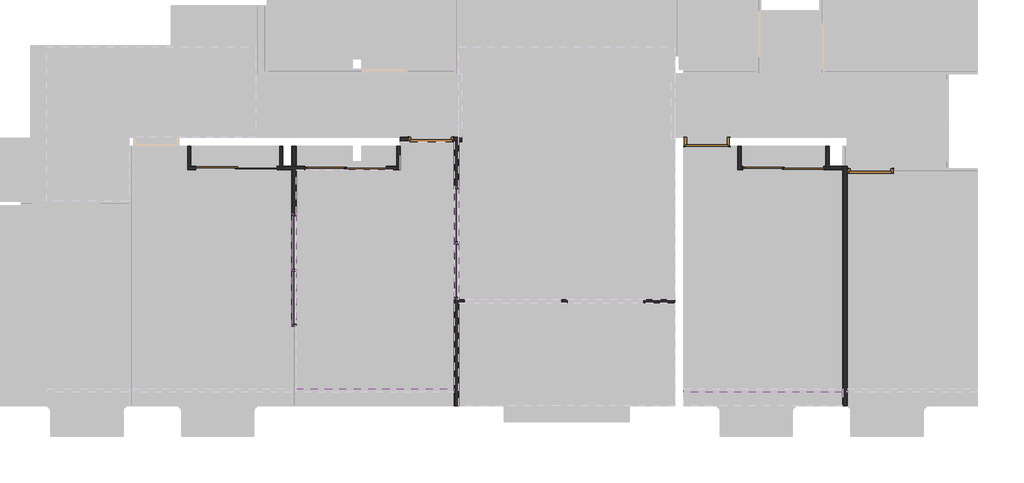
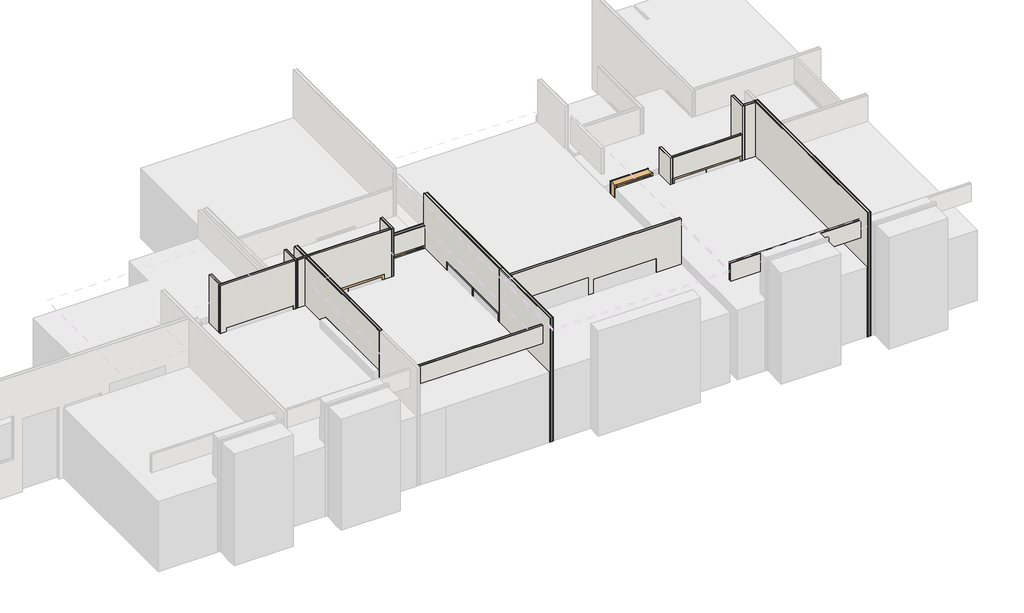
# One storey, part 2 of 6: 24 members, 19 walls, 8 plates, 6 doors.
"""IFC4 building model written with IfcOpenShell, lengths in millimetres."""

from ifc_helpers import new_model, si_unit, frame, origin, origin_with_axes, place, context, project, spatial, polyline, outline, extrude, faceted_brep, transform, mapped, element, save
from components import door_440ebcd5, door_922e83f1, door_a5923646, door_b5ea6a65, member_de099058, member_646bbe2c, member_8ddccc91, member_29740ae2, plate_de56a2f1

model = new_model("IFC4")

# Units and contexts
model_context = context("Model", 3, world=origin())
ifc_project = project(units=[si_unit("LENGTHUNIT", "METRE", prefix="MILLI")], contexts=[model_context])

# Site, building, storey
site = spatial("IfcSite", under=ifc_project)
building = spatial("IfcBuilding", under=site)
storey = spatial("IfcBuildingStorey", under=building, Name="0 Mairie RDC 0.00", Elevation=0.0)

# Doors
placement = place(None, origin())
door_shape = door_440ebcd5(model_context)
element("IfcDoor", 1, ObjectType="Portes - Int. Simple - PP (0.89m x 2.04m)", at=placement, inside=storey, context=model_context, shape_type="MappedRepresentation", body=[
    mapped(door_shape, transform((-4782.496702, -8238.2685444, 0.0), x_axis=(1.0, 0.0, 0.0), y_axis=(0.0, 1.0, 0.0), z_axis=(0.0, 0.0, 1.0))),
])
door_2_shape = door_922e83f1(model_context)
element("IfcDoor", 2, ObjectType="Portes - Int. Simple - PP (0.89m x 2.04m) (1)", at=placement, inside=storey, context=model_context, shape_type="MappedRepresentation", body=[
    mapped(door_2_shape, transform((-1161.3922233, -8831.1038426, 0.0), x_axis=(1.0, 0.0, 0.0), y_axis=(0.0, 1.0, 0.0), z_axis=(0.0, 0.0, 1.0))),
])
door_3_shape = door_a5923646(model_context)
element("IfcDoor", 3, ObjectType="Portes - Int. Simple - PP (0.89m x 2.04m) (2)", at=placement, inside=storey, context=model_context, shape_type="MappedRepresentation", body=[
    mapped(door_3_shape, transform((-10819.6455383, -8132.7867091, 0.0), x_axis=(1.0, 0.0, 0.0), y_axis=(0.0, 1.0, 0.0), z_axis=(0.0, 0.0, 1.0))),
])
door_4_shape = door_b5ea6a65(model_context)
element("IfcDoor", 4, ObjectType="Portes - Placard coulissante - 2 panneaux - Placard coulissante - 2 panneaux 1.80", at=placement, inside=storey, context=model_context, shape_type="MappedRepresentation", body=[
    mapped(door_4_shape, transform((-3421.0406291, -8751.7570094, 0.0), x_axis=(1.0, 0.0, 0.0), y_axis=(0.0, 1.0, 0.0), z_axis=(0.0, 0.0, 1.0))),
])
element("IfcDoor", 5, ObjectType="Portes - Placard coulissante - 2 panneaux - Placard coulissante - 2 panneaux 1.80", at=placement, inside=storey, context=model_context, shape_type="MappedRepresentation", body=[
    mapped(door_4_shape, transform((-13728.6479915, -8682.779598, 0.0), x_axis=(-1.0, 0.0, 0.0), y_axis=(0.0, -1.0, 0.0), z_axis=(0.0, 0.0, 1.0))),
])
element("IfcDoor", 6, ObjectType="Portes - Placard coulissante - 2 panneaux - Placard coulissante - 2 panneaux 1.80", at=placement, inside=storey, context=model_context, shape_type="MappedRepresentation", body=[
    mapped(door_4_shape, transform((-13113.6818197, -8752.6130855, 0.0), x_axis=(1.0, 0.0, 0.0), y_axis=(0.0, 1.0, 0.0), z_axis=(0.0, 0.0, 1.0))),
])

# Members
member_shape = member_de099058(model_context)
element("IfcMember", 7, ObjectType="Meneaux de murs-rideaux - Meneau rectangulaire - 10 x 25mm", at=placement, inside=storey, context=model_context, shape_type="MappedRepresentation", body=[
    mapped(member_shape, transform((-9754.6455383, -10378.5833837, 1125.0), x_axis=(0.0, 1.0, 0.0), y_axis=(1.0, 0.0, 0.0), z_axis=(0.0, 0.0, -1.0))),
])
element("IfcMember", 8, ObjectType="Meneaux de murs-rideaux - Meneau rectangulaire - 10 x 25mm", at=placement, inside=storey, context=model_context, shape_type="MappedRepresentation", body=[
    mapped(member_shape, transform((-13354.255006, -10978.7649845, 1125.0), x_axis=(0.0, 1.0, 0.0), y_axis=(1.0, 0.0, 0.0), z_axis=(0.0, 0.0, -1.0))),
])
element("IfcMember", 9, ObjectType="Meneaux de murs-rideaux - Meneau rectangulaire - 10 x 25mm (1)", at=placement, inside=storey, context=model_context, shape_type="MappedRepresentation", body=[
    mapped(member_shape, transform((-9754.6455383, -10378.5833837, 50.0), x_axis=(0.0, 1.0, 0.0), y_axis=(1.0, 0.0, 0.0), z_axis=(0.0, 0.0, -1.0))),
])
element("IfcMember", 10, ObjectType="Meneaux de murs-rideaux - Meneau rectangulaire - 10 x 25mm (1)", at=placement, inside=storey, context=model_context, shape_type="MappedRepresentation", body=[
    mapped(member_shape, transform((-13354.255006, -10978.7649845, 50.0), x_axis=(0.0, 1.0, 0.0), y_axis=(1.0, 0.0, 0.0), z_axis=(0.0, 0.0, -1.0))),
])
member_2_shape = member_646bbe2c(model_context)
element("IfcMember", 11, ObjectType="Meneaux de murs-rideaux - Meneau rectangulaire - 10 x 25mm (2)", at=placement, inside=storey, context=model_context, shape_type="MappedRepresentation", body=[
    mapped(member_2_shape, transform((-9754.6455383, -9128.5833837, 1125.0), x_axis=(0.0, 1.0, 0.0), y_axis=(1.0, 0.0, 0.0), z_axis=(0.0, 0.0, -1.0))),
])
element("IfcMember", 12, ObjectType="Meneaux de murs-rideaux - Meneau rectangulaire - 10 x 25mm (2)", at=placement, inside=storey, context=model_context, shape_type="MappedRepresentation", body=[
    mapped(member_2_shape, transform((-13354.255006, -9728.7649845, 1125.0), x_axis=(0.0, 1.0, 0.0), y_axis=(1.0, 0.0, 0.0), z_axis=(0.0, 0.0, -1.0))),
])
element("IfcMember", 13, ObjectType="Meneaux de murs-rideaux - Meneau rectangulaire - 10 x 25mm (3)", at=placement, inside=storey, context=model_context, shape_type="MappedRepresentation", body=[
    mapped(member_2_shape, transform((-9754.6455383, -9128.5833837, 50.0), x_axis=(0.0, 1.0, 0.0), y_axis=(1.0, 0.0, 0.0), z_axis=(0.0, 0.0, -1.0))),
])
element("IfcMember", 14, ObjectType="Meneaux de murs-rideaux - Meneau rectangulaire - 10 x 25mm (3)", at=placement, inside=storey, context=model_context, shape_type="MappedRepresentation", body=[
    mapped(member_2_shape, transform((-13354.255006, -9728.7649845, 50.0), x_axis=(0.0, 1.0, 0.0), y_axis=(1.0, 0.0, 0.0), z_axis=(0.0, 0.0, -1.0))),
])
element("IfcMember", 15, ObjectType="Meneaux de murs-rideaux - Meneau rectangulaire - 10 x 25mm (4)", at=placement, inside=storey, context=model_context, shape_type="MappedRepresentation", body=[
    mapped(member_2_shape, transform((-9754.6455383, -11628.5833837, 1125.0), x_axis=(0.0, -1.0, 0.0), y_axis=(1.0, 0.0, 0.0), z_axis=(0.0, 0.0, 1.0))),
])
element("IfcMember", 16, ObjectType="Meneaux de murs-rideaux - Meneau rectangulaire - 10 x 25mm (4)", at=placement, inside=storey, context=model_context, shape_type="MappedRepresentation", body=[
    mapped(member_2_shape, transform((-13354.255006, -12228.7649845, 1125.0), x_axis=(0.0, -1.0, 0.0), y_axis=(1.0, 0.0, 0.0), z_axis=(0.0, 0.0, 1.0))),
])
element("IfcMember", 17, ObjectType="Meneaux de murs-rideaux - Meneau rectangulaire - 10 x 25mm (5)", at=placement, inside=storey, context=model_context, shape_type="MappedRepresentation", body=[
    mapped(member_2_shape, transform((-9754.6455383, -11628.5833837, 2200.0), x_axis=(0.0, -1.0, 0.0), y_axis=(1.0, 0.0, 0.0), z_axis=(0.0, 0.0, 1.0))),
])
element("IfcMember", 18, ObjectType="Meneaux de murs-rideaux - Meneau rectangulaire - 10 x 25mm (5)", at=placement, inside=storey, context=model_context, shape_type="MappedRepresentation", body=[
    mapped(member_2_shape, transform((-13354.255006, -12228.7649845, 2200.0), x_axis=(0.0, -1.0, 0.0), y_axis=(1.0, 0.0, 0.0), z_axis=(0.0, 0.0, 1.0))),
])
member_3_shape = member_8ddccc91(model_context)
element("IfcMember", 19, ObjectType="Meneaux de murs-rideaux - Meneau rectangulaire - 10 x 25mm (6)", at=placement, inside=storey, context=model_context, shape_type="MappedRepresentation", body=[
    mapped(member_3_shape, transform((-9754.6455383, -9178.5833837, 1125.0), x_axis=(0.0, 0.0, 1.0), y_axis=(1.0, 0.0, 0.0), z_axis=(0.0, 1.0, 0.0))),
])
element("IfcMember", 20, ObjectType="Meneaux de murs-rideaux - Meneau rectangulaire - 10 x 25mm (6)", at=placement, inside=storey, context=model_context, shape_type="MappedRepresentation", body=[
    mapped(member_3_shape, transform((-9754.6455383, -10403.5833837, 1125.0), x_axis=(0.0, 0.0, 1.0), y_axis=(1.0, 0.0, 0.0), z_axis=(0.0, 1.0, 0.0))),
])
element("IfcMember", 21, ObjectType="Meneaux de murs-rideaux - Meneau rectangulaire - 10 x 25mm (6)", at=placement, inside=storey, context=model_context, shape_type="MappedRepresentation", body=[
    mapped(member_3_shape, transform((-13354.255006, -9778.7649845, 1125.0), x_axis=(0.0, 0.0, 1.0), y_axis=(1.0, 0.0, 0.0), z_axis=(0.0, 1.0, 0.0))),
])
element("IfcMember", 22, ObjectType="Meneaux de murs-rideaux - Meneau rectangulaire - 10 x 25mm (6)", at=placement, inside=storey, context=model_context, shape_type="MappedRepresentation", body=[
    mapped(member_3_shape, transform((-13354.255006, -11003.7649845, 1125.0), x_axis=(0.0, 0.0, 1.0), y_axis=(1.0, 0.0, 0.0), z_axis=(0.0, 1.0, 0.0))),
])
member_4_shape = member_29740ae2(model_context)
element("IfcMember", 23, ObjectType="Meneaux de murs-rideaux - Meneau rectangulaire - 10 x 25mm (7)", at=placement, inside=storey, context=model_context, shape_type="MappedRepresentation", body=[
    mapped(member_4_shape, transform((-9754.6455383, -10378.5833837, 0.0), x_axis=(0.0, 0.0, -1.0), y_axis=(1.0, 0.0, 0.0), z_axis=(0.0, -1.0, 0.0))),
])
element("IfcMember", 24, ObjectType="Meneaux de murs-rideaux - Meneau rectangulaire - 10 x 25mm (7)", at=placement, inside=storey, context=model_context, shape_type="MappedRepresentation", body=[
    mapped(member_4_shape, transform((-13354.255006, -10978.7649845, 0.0), x_axis=(0.0, 0.0, -1.0), y_axis=(1.0, 0.0, 0.0), z_axis=(0.0, -1.0, 0.0))),
])
element("IfcMember", 25, ObjectType="Meneaux de murs-rideaux - Meneau rectangulaire - 10 x 25mm (8)", at=placement, inside=storey, context=model_context, shape_type="MappedRepresentation", body=[
    mapped(member_4_shape, transform((-9754.6455383, -11628.5833837, 0.0), x_axis=(0.0, 0.0, -1.0), y_axis=(1.0, 0.0, 0.0), z_axis=(0.0, -1.0, 0.0))),
])
element("IfcMember", 26, ObjectType="Meneaux de murs-rideaux - Meneau rectangulaire - 10 x 25mm (8)", at=placement, inside=storey, context=model_context, shape_type="MappedRepresentation", body=[
    mapped(member_4_shape, transform((-13354.255006, -12228.7649845, 0.0), x_axis=(0.0, 0.0, -1.0), y_axis=(1.0, 0.0, 0.0), z_axis=(0.0, -1.0, 0.0))),
])
element("IfcMember", 27, ObjectType="Meneaux de murs-rideaux - Meneau rectangulaire - 10 x 25mm (9)", at=placement, inside=storey, context=model_context, shape_type="MappedRepresentation", body=[
    mapped(member_4_shape, transform((-9754.6455383, -10378.5833837, 2250.0), x_axis=(0.0, 0.0, 1.0), y_axis=(1.0, 0.0, 0.0), z_axis=(0.0, 1.0, 0.0))),
])
element("IfcMember", 28, ObjectType="Meneaux de murs-rideaux - Meneau rectangulaire - 10 x 25mm (9)", at=placement, inside=storey, context=model_context, shape_type="MappedRepresentation", body=[
    mapped(member_4_shape, transform((-13354.255006, -10978.7649845, 2250.0), x_axis=(0.0, 0.0, 1.0), y_axis=(1.0, 0.0, 0.0), z_axis=(0.0, 1.0, 0.0))),
])
element("IfcMember", 29, ObjectType="Meneaux de murs-rideaux - Meneau rectangulaire - 10 x 25mm (10)", at=placement, inside=storey, context=model_context, shape_type="MappedRepresentation", body=[
    mapped(member_4_shape, transform((-9754.6455383, -9128.5833837, 2250.0), x_axis=(0.0, 0.0, 1.0), y_axis=(1.0, 0.0, 0.0), z_axis=(0.0, 1.0, 0.0))),
])
element("IfcMember", 30, ObjectType="Meneaux de murs-rideaux - Meneau rectangulaire - 10 x 25mm (10)", at=placement, inside=storey, context=model_context, shape_type="MappedRepresentation", body=[
    mapped(member_4_shape, transform((-13354.255006, -9728.7649845, 2250.0), x_axis=(0.0, 0.0, 1.0), y_axis=(1.0, 0.0, 0.0), z_axis=(0.0, 1.0, 0.0))),
])

# Plates
plate_shape = plate_de56a2f1(model_context)
element("IfcPlate", 31, ObjectType="Panneaux de murs-rideaux - Panneau système - Vitré", at=placement, inside=storey, context=model_context, shape_type="MappedRepresentation", body=[
    mapped(plate_shape, transform((-9759.6455383, -11578.5833837, 50.0), x_axis=(0.0, 1.0, 0.0), y_axis=(-1.0, 0.0, 0.0), z_axis=(0.0, 0.0, 1.0))),
])
element("IfcPlate", 32, ObjectType="Panneaux de murs-rideaux - Panneau système - Vitré", at=placement, inside=storey, context=model_context, shape_type="MappedRepresentation", body=[
    mapped(plate_shape, transform((-9759.6455383, -10353.5833837, 50.0), x_axis=(0.0, 1.0, 0.0), y_axis=(-1.0, 0.0, 0.0), z_axis=(0.0, 0.0, 1.0))),
])
element("IfcPlate", 33, ObjectType="Panneaux de murs-rideaux - Panneau système - Vitré", at=placement, inside=storey, context=model_context, shape_type="MappedRepresentation", body=[
    mapped(plate_shape, transform((-9759.6455383, -11578.5833837, 1150.0), x_axis=(0.0, 1.0, 0.0), y_axis=(-1.0, 0.0, 0.0), z_axis=(0.0, 0.0, 1.0))),
])
element("IfcPlate", 34, ObjectType="Panneaux de murs-rideaux - Panneau système - Vitré", at=placement, inside=storey, context=model_context, shape_type="MappedRepresentation", body=[
    mapped(plate_shape, transform((-9759.6455383, -10353.5833837, 1150.0), x_axis=(0.0, 1.0, 0.0), y_axis=(-1.0, 0.0, 0.0), z_axis=(0.0, 0.0, 1.0))),
])
element("IfcPlate", 35, ObjectType="Panneaux de murs-rideaux - Panneau système - Vitré", at=placement, inside=storey, context=model_context, shape_type="MappedRepresentation", body=[
    mapped(plate_shape, transform((-13359.255006, -12178.7649845, 50.0), x_axis=(0.0, 1.0, 0.0), y_axis=(-1.0, 0.0, 0.0), z_axis=(0.0, 0.0, 1.0))),
])
element("IfcPlate", 36, ObjectType="Panneaux de murs-rideaux - Panneau système - Vitré", at=placement, inside=storey, context=model_context, shape_type="MappedRepresentation", body=[
    mapped(plate_shape, transform((-13359.255006, -10953.7649845, 50.0), x_axis=(0.0, 1.0, 0.0), y_axis=(-1.0, 0.0, 0.0), z_axis=(0.0, 0.0, 1.0))),
])
element("IfcPlate", 37, ObjectType="Panneaux de murs-rideaux - Panneau système - Vitré", at=placement, inside=storey, context=model_context, shape_type="MappedRepresentation", body=[
    mapped(plate_shape, transform((-13359.255006, -12178.7649845, 1150.0), x_axis=(0.0, 1.0, 0.0), y_axis=(-1.0, 0.0, 0.0), z_axis=(0.0, 0.0, 1.0))),
])
element("IfcPlate", 38, ObjectType="Panneaux de murs-rideaux - Panneau système - Vitré", at=placement, inside=storey, context=model_context, shape_type="MappedRepresentation", body=[
    mapped(plate_shape, transform((-13359.255006, -10953.7649845, 1150.0), x_axis=(0.0, 1.0, 0.0), y_axis=(-1.0, 0.0, 0.0), z_axis=(0.0, 0.0, 1.0))),
])

# Walls
element("IfcWall", 39, ObjectType="Murs - Mur de base - A cloison placostil 98 sèche", at=placement, inside=storey, context=model_context, shape_type="SweptSolid", body=[
    extrude(outline(polyline([(-1206.3922233, -13978.5662223), (-1206.3922233, -8681.7570094), (-1193.8922233, -8681.7570094), (-1193.8922233, -13978.5662223), (-1206.3922233, -13978.5662223)])), origin_with_axes(), (0.0, 0.0, 1.0), 3550.0),
    extrude(outline(polyline([(-1193.8922233, -13978.5662223), (-1193.8922233, -8681.7570094), (-1181.3922233, -8681.7570094), (-1181.3922233, -13978.5662223), (-1193.8922233, -13978.5662223)])), origin_with_axes(), (0.0, 0.0, 1.0), 3550.0),
    extrude(outline(polyline([(-1181.3922233, -13978.5662223), (-1181.3922233, -8681.7570094), (-1131.3922233, -8681.7570094), (-1131.3922233, -13978.5662223), (-1181.3922233, -13978.5662223)])), origin_with_axes(), (0.0, 0.0, 1.0), 3550.0),
    extrude(outline(polyline([(-1131.3922233, -13978.5662223), (-1131.3922233, -8681.7570094), (-1118.8922233, -8681.7570094), (-1118.8922233, -13978.5662223), (-1131.3922233, -13978.5662223)])), origin_with_axes(), (0.0, 0.0, 1.0), 3550.0),
    extrude(outline(polyline([(-1118.8922233, -13978.5662223), (-1118.8922233, -8681.7570094), (-1106.3922233, -8681.7570094), (-1106.3922233, -13978.5662223), (-1118.8922233, -13978.5662223)])), origin_with_axes(), (0.0, 0.0, 1.0), 3550.0),
])
element("IfcWall", 40, ObjectType="Murs - Mur de base - A cloison placostil 72 sèche", at=placement, inside=storey, context=model_context, shape_type="SweptSolid", body=[
    extrude(outline(polyline([(-3526.0406291, -8751.7570094), (-3526.0406291, -8238.2685444), (-3516.0406291, -8238.2685444), (-3516.0406291, -8751.7570094), (-3526.0406291, -8751.7570094)])), origin_with_axes(), (0.0, 0.0, 1.0), 2750.0),
    extrude(outline(polyline([(-3516.0406291, -8751.7570094), (-3516.0406291, -8238.2685444), (-3466.0406291, -8238.2685444), (-3466.0406291, -8751.7570094), (-3516.0406291, -8751.7570094)])), origin_with_axes(), (0.0, 0.0, 1.0), 2750.0),
    extrude(outline(polyline([(-3466.0406291, -8751.7570094), (-3466.0406291, -8238.2685444), (-3456.0406291, -8238.2685444), (-3456.0406291, -8751.7570094), (-3466.0406291, -8751.7570094)])), origin_with_axes(), (0.0, 0.0, 1.0), 2750.0),
])
element("IfcWall", 41, ObjectType="Murs - Mur de base - A cloison placostil 72 sèche", at=placement, inside=storey, context=model_context, shape_type="SweptSolid", body=[
    extrude(outline(polyline([(2750.0, -1576.0769125), (2750.0, -3456.0406291), (0.0, -3456.0406291), (0.0, -3421.0406291), (2100.0, -3421.0406291), (2100.0, -1621.0406291), (0.0, -1621.0406291), (0.0, -1576.0769125), (2750.0, -1576.0769125)])), frame((0.0, -8751.7570094, 0.0), z_axis=(0.0, 1.0, 0.0), x_axis=(0.0, 0.0, 1.0)), (0.0, 0.0, 1.0), 10.0),
    extrude(outline(polyline([(2750.0, -1576.0769125), (2750.0, -3456.0406291), (0.0, -3456.0406291), (0.0, -3421.0406291), (2100.0, -3421.0406291), (2100.0, -1621.0406291), (0.0, -1621.0406291), (0.0, -1576.0769125), (2750.0, -1576.0769125)])), frame((0.0, -8741.7570094, 0.0), z_axis=(0.0, 1.0, 0.0), x_axis=(0.0, 0.0, 1.0)), (0.0, 0.0, 1.0), 50.0),
    extrude(outline(polyline([(2750.0, -1576.0769125), (2750.0, -3456.0406291), (0.0, -3456.0406291), (0.0, -3421.0406291), (2100.0, -3421.0406291), (2100.0, -1621.0406291), (0.0, -1621.0406291), (0.0, -1576.0769125), (2750.0, -1576.0769125)])), frame((0.0, -8691.7570094, 0.0), z_axis=(0.0, 1.0, 0.0), x_axis=(0.0, 0.0, 1.0)), (0.0, 0.0, 1.0), 10.0),
])
element("IfcWall", 42, ObjectType="Murs - Mur de base - A cloison placostil 72 sèche", at=placement, inside=storey, context=model_context, shape_type="SweptSolid", body=[
    extrude(outline(polyline([(-1576.0769125, -8751.7570094), (-1576.0769125, -8238.2685444), (-1566.0769125, -8238.2685444), (-1566.0769125, -8751.7570094), (-1576.0769125, -8751.7570094)])), origin_with_axes(), (0.0, 0.0, 1.0), 3550.0),
    extrude(outline(polyline([(-1566.0769125, -8751.7570094), (-1566.0769125, -8238.2685444), (-1516.0769125, -8238.2685444), (-1516.0769125, -8751.7570094), (-1566.0769125, -8751.7570094)])), origin_with_axes(), (0.0, 0.0, 1.0), 3550.0),
    extrude(outline(polyline([(-1516.0769125, -8751.7570094), (-1516.0769125, -8238.2685444), (-1506.0769125, -8238.2685444), (-1506.0769125, -8751.7570094), (-1516.0769125, -8751.7570094)])), origin_with_axes(), (0.0, 0.0, 1.0), 3550.0),
])
element("IfcWall", 43, ObjectType="Murs - Mur de base - A cloison placostil 98 sèche", at=placement, inside=storey, context=model_context, shape_type="SweptSolid", body=[
    extrude(outline(polyline([(-9804.6455383, -13978.5662223), (-9804.6455383, -11628.5833837), (-9792.1455383, -11628.5833837), (-9792.1455383, -13978.5662223), (-9804.6455383, -13978.5662223)])), origin_with_axes(), (0.0, 0.0, 1.0), 3540.0),
    extrude(outline(polyline([(-9792.1455383, -13978.5662223), (-9792.1455383, -11628.5833837), (-9779.6455383, -11628.5833837), (-9779.6455383, -13978.5662223), (-9792.1455383, -13978.5662223)])), origin_with_axes(), (0.0, 0.0, 1.0), 3540.0),
    extrude(outline(polyline([(-9779.6455383, -13978.5662223), (-9779.6455383, -11628.5833837), (-9729.6455383, -11628.5833837), (-9729.6455383, -13978.5662223), (-9779.6455383, -13978.5662223)])), origin_with_axes(), (0.0, 0.0, 1.0), 3540.0),
    extrude(outline(polyline([(-9729.6455383, -13978.5662223), (-9729.6455383, -11628.5833837), (-9717.1455383, -11628.5833837), (-9717.1455383, -13978.5662223), (-9729.6455383, -13978.5662223)])), origin_with_axes(), (0.0, 0.0, 1.0), 3540.0),
    extrude(outline(polyline([(-9717.1455383, -13978.5662223), (-9717.1455383, -11628.5833837), (-9704.6455383, -11628.5833837), (-9704.6455383, -13978.5662223), (-9717.1455383, -13978.5662223)])), origin_with_axes(), (0.0, 0.0, 1.0), 3540.0),
])
element("IfcWall", 44, ObjectType="Murs - Mur de base - A cloison placostil 72 sèche", at=placement, inside=storey, context=model_context, shape_type="SweptSolid", body=[
    extrude(outline(polyline([(3300.0, -4927.496702), (3300.0, -9704.6455383), (0.0, -9704.6455383), (0.0, -9584.6455383), (2500.0, -9584.6455383), (2500.0, -7424.6455383), (0.0, -7424.6455383), (0.0, -7305.3883155), (2400.0, -7305.3883155), (2400.0, -5605.3883155), (0.0, -5605.3883155), (0.0, -4927.496702), (3300.0, -4927.496702)])), frame((0.0, -11698.5833837, 0.0), z_axis=(0.0, 1.0, 0.0), x_axis=(0.0, 0.0, 1.0)), (0.0, 0.0, 1.0), 10.0),
    extrude(outline(polyline([(3300.0, -4927.496702), (3300.0, -9704.6455383), (0.0, -9704.6455383), (0.0, -9584.6455383), (2500.0, -9584.6455383), (2500.0, -7424.6455383), (0.0, -7424.6455383), (0.0, -7305.3883155), (2400.0, -7305.3883155), (2400.0, -5605.3883155), (0.0, -5605.3883155), (0.0, -4927.496702), (3300.0, -4927.496702)])), frame((0.0, -11688.5833837, 0.0), z_axis=(0.0, 1.0, 0.0), x_axis=(0.0, 0.0, 1.0)), (0.0, 0.0, 1.0), 50.0),
    extrude(outline(polyline([(3300.0, -4927.496702), (3300.0, -9704.6455383), (0.0, -9704.6455383), (0.0, -9584.6455383), (2500.0, -9584.6455383), (2500.0, -7424.6455383), (0.0, -7424.6455383), (0.0, -7305.3883155), (2400.0, -7305.3883155), (2400.0, -5605.3883155), (0.0, -5605.3883155), (0.0, -4927.496702), (3300.0, -4927.496702)])), frame((0.0, -11638.5833837, 0.0), z_axis=(0.0, 1.0, 0.0), x_axis=(0.0, 0.0, 1.0)), (0.0, 0.0, 1.0), 10.0),
])
element("IfcWall", 45, ObjectType="Murs - Mur de base - A cloison placostil 72 sèche", at=placement, inside=storey, context=model_context, shape_type="SweptSolid", body=[
    extrude(outline(polyline([(-11073.1086334, -8752.6130855), (-11073.1086334, -8232.7637435), (-11063.1086334, -8232.7637435), (-11063.1086334, -8752.6130855), (-11073.1086334, -8752.6130855)])), origin_with_axes(), (0.0, 0.0, 1.0), 3370.0),
    extrude(outline(polyline([(-11063.1086334, -8752.6130855), (-11063.1086334, -8232.7637435), (-11013.1086334, -8232.7637435), (-11013.1086334, -8752.6130855), (-11063.1086334, -8752.6130855)])), origin_with_axes(), (0.0, 0.0, 1.0), 3370.0),
    extrude(outline(polyline([(-11013.1086334, -8752.6130855), (-11013.1086334, -8232.7637435), (-11003.1086334, -8232.7637435), (-11003.1086334, -8752.6130855), (-11013.1086334, -8752.6130855)])), origin_with_axes(), (0.0, 0.0, 1.0), 3370.0),
])
element("IfcWall", 46, ObjectType="Murs - Mur de base - A cloison placostil 72 sèche", at=placement, inside=storey, context=model_context, shape_type="SweptSolid", body=[
    extrude(outline(polyline([(3370.0, -11073.1086334), (3370.0, -13304.255006), (0.0, -13304.255006), (0.0, -13113.6818197), (2100.0, -13113.6818197), (2100.0, -11313.6818197), (0.0, -11313.6818197), (0.0, -11073.1086334), (3370.0, -11073.1086334)])), frame((0.0, -8692.6130855, 0.0), z_axis=(0.0, 1.0, 0.0), x_axis=(0.0, 0.0, 1.0)), (0.0, 0.0, 1.0), 10.0),
    extrude(outline(polyline([(3370.0, -11073.1086334), (3370.0, -13304.255006), (0.0, -13304.255006), (0.0, -13113.6818197), (2100.0, -13113.6818197), (2100.0, -11313.6818197), (0.0, -11313.6818197), (0.0, -11073.1086334), (3370.0, -11073.1086334)])), frame((0.0, -8742.6130855, 0.0), z_axis=(0.0, 1.0, 0.0), x_axis=(0.0, 0.0, 1.0)), (0.0, 0.0, 1.0), 50.0),
    extrude(outline(polyline([(3370.0, -11073.1086334), (3370.0, -13304.255006), (0.0, -13304.255006), (0.0, -13113.6818197), (2100.0, -13113.6818197), (2100.0, -11313.6818197), (0.0, -11313.6818197), (0.0, -11073.1086334), (3370.0, -11073.1086334)])), frame((0.0, -8752.6130855, 0.0), z_axis=(0.0, 1.0, 0.0), x_axis=(0.0, 0.0, 1.0)), (0.0, 0.0, 1.0), 10.0),
])
element("IfcWall", 47, ObjectType="Murs - Mur de base - A cloison placostil 98 sèche", at=placement, inside=storey, context=model_context, shape_type="SweptSolid", body=[
    extrude(outline(polyline([(2650.0, -9638.4471465), (2650.0, -11003.1086334), (0.0, -11003.1086334), (0.0, -10819.6455383), (2075.0, -10819.6455383), (2075.0, -9819.6455383), (0.0, -9819.6455383), (0.0, -9638.4471465), (2650.0, -9638.4471465)])), frame((0.0, -8132.7867091, 0.0), z_axis=(0.0, 1.0, 0.0), x_axis=(0.0, 0.0, 1.0)), (0.0, 0.0, 1.0), 12.5),
    extrude(outline(polyline([(2650.0, -9638.4471465), (2650.0, -11003.1086334), (0.0, -11003.1086334), (0.0, -10819.6455383), (2075.0, -10819.6455383), (2075.0, -9819.6455383), (0.0, -9819.6455383), (0.0, -9638.4471465), (2650.0, -9638.4471465)])), frame((0.0, -8120.2867091, 0.0), z_axis=(0.0, 1.0, 0.0), x_axis=(0.0, 0.0, 1.0)), (0.0, 0.0, 1.0), 12.5),
    extrude(outline(polyline([(2650.0, -9638.4471465), (2650.0, -11003.1086334), (0.0, -11003.1086334), (0.0, -10819.6455383), (2075.0, -10819.6455383), (2075.0, -9819.6455383), (0.0, -9819.6455383), (0.0, -9638.4471465), (2650.0, -9638.4471465)])), frame((0.0, -8107.7867091, 0.0), z_axis=(0.0, 1.0, 0.0), x_axis=(0.0, 0.0, 1.0)), (0.0, 0.0, 1.0), 50.0),
    extrude(outline(polyline([(2650.0, -9638.4471465), (2650.0, -11003.1086334), (0.0, -11003.1086334), (0.0, -10819.6455383), (2075.0, -10819.6455383), (2075.0, -9819.6455383), (0.0, -9819.6455383), (0.0, -9638.4471465), (2650.0, -9638.4471465)])), frame((0.0, -8057.7867091, 0.0), z_axis=(0.0, 1.0, 0.0), x_axis=(0.0, 0.0, 1.0)), (0.0, 0.0, 1.0), 12.5),
    extrude(outline(polyline([(2650.0, -9638.4471465), (2650.0, -11003.1086334), (0.0, -11003.1086334), (0.0, -10819.6455383), (2075.0, -10819.6455383), (2075.0, -9819.6455383), (0.0, -9819.6455383), (0.0, -9638.4471465), (2650.0, -9638.4471465)])), frame((0.0, -8045.2867091, 0.0), z_axis=(0.0, 1.0, 0.0), x_axis=(0.0, 0.0, 1.0)), (0.0, 0.0, 1.0), 12.5),
])
element("IfcWall", 48, ObjectType="Murs - Mur de base - A cloison placostil 98 sèche", at=placement, inside=storey, context=model_context, shape_type="SweptSolid", body=[
    extrude(outline(polyline([(-11628.5833837, 3540.0), (-8082.7867091, 3540.0), (-8082.7867091, 0.0), (-9128.5833837, 0.0), (-9128.5833837, 2250.0), (-11628.5833837, 2250.0), (-11628.5833837, 3540.0)])), frame((-9804.6455383, 0.0, 0.0), z_axis=(1.0, 0.0, 0.0), x_axis=(0.0, 1.0, 0.0)), (0.0, 0.0, 1.0), 12.5),
    extrude(outline(polyline([(-11628.5833837, 3540.0), (-8082.7867091, 3540.0), (-8082.7867091, 0.0), (-9128.5833837, 0.0), (-9128.5833837, 2250.0), (-11628.5833837, 2250.0), (-11628.5833837, 3540.0)])), frame((-9792.1455383, 0.0, 0.0), z_axis=(1.0, 0.0, 0.0), x_axis=(0.0, 1.0, 0.0)), (0.0, 0.0, 1.0), 12.5),
    extrude(outline(polyline([(-11628.5833837, 3540.0), (-8082.7867091, 3540.0), (-8082.7867091, 0.0), (-9128.5833837, 0.0), (-9128.5833837, 2250.0), (-11628.5833837, 2250.0), (-11628.5833837, 3540.0)])), frame((-9779.6455383, 0.0, 0.0), z_axis=(1.0, 0.0, 0.0), x_axis=(0.0, 1.0, 0.0)), (0.0, 0.0, 1.0), 50.0),
    extrude(outline(polyline([(-11628.5833837, 3540.0), (-8082.7867091, 3540.0), (-8082.7867091, 0.0), (-9128.5833837, 0.0), (-9128.5833837, 2250.0), (-11628.5833837, 2250.0), (-11628.5833837, 3540.0)])), frame((-9729.6455383, 0.0, 0.0), z_axis=(1.0, 0.0, 0.0), x_axis=(0.0, 1.0, 0.0)), (0.0, 0.0, 1.0), 12.5),
    extrude(outline(polyline([(-11628.5833837, 3540.0), (-8082.7867091, 3540.0), (-8082.7867091, 0.0), (-9128.5833837, 0.0), (-9128.5833837, 2250.0), (-11628.5833837, 2250.0), (-11628.5833837, 3540.0)])), frame((-9717.1455383, 0.0, 0.0), z_axis=(1.0, 0.0, 0.0), x_axis=(0.0, 1.0, 0.0)), (0.0, 0.0, 1.0), 12.5),
])
element("IfcWall", 49, ObjectType="Murs - Mur de base - A cloison placostil 72 sèche", at=placement, inside=storey, context=model_context, shape_type="SweptSolid", body=[
    extrude(outline(polyline([(-1506.0769125, -8751.7570094), (-1506.0769125, -8741.7570094), (-1206.3922233, -8741.7570094), (-1206.3922233, -8751.7570094), (-1506.0769125, -8751.7570094)])), origin_with_axes(), (0.0, 0.0, 1.0), 3550.0),
    extrude(outline(polyline([(-1506.0769125, -8741.7570094), (-1506.0769125, -8691.7570094), (-1206.3922233, -8691.7570094), (-1206.3922233, -8741.7570094), (-1506.0769125, -8741.7570094)])), origin_with_axes(), (0.0, 0.0, 1.0), 3550.0),
    extrude(outline(polyline([(-1506.0769125, -8691.7570094), (-1506.0769125, -8681.7570094), (-1206.3922233, -8681.7570094), (-1206.3922233, -8691.7570094), (-1506.0769125, -8691.7570094)])), origin_with_axes(), (0.0, 0.0, 1.0), 3550.0),
])
element("IfcWall", 50, ObjectType="Murs - Mur de base - A cloison placostil 98 sèche", at=placement, inside=storey, context=model_context, shape_type="Brep", body=[
    faceted_brep([(-13404.255006, -12228.7534329, 3370.0), (-13391.755006, -12228.7534329, 3370.0), (-13391.755006, -8752.7765879, 3370.0), (-13404.255006, -8752.7765879, 3370.0), (-13404.255006, -8752.7765879, 0.0), (-13391.755006, -8752.7765879, 0.0), (-13391.755006, -9728.7649845, 0.0), (-13404.255006, -9728.7649845, 0.0), (-13404.255006, -12228.7534329, 2250.0), (-13391.755006, -12228.7534329, 2250.0), (-13391.755006, -9728.7649845, 2250.0), (-13391.755006, -9728.7649845, 2080.0), (-13404.255006, -9728.7649845, 2080.0), (-13404.255006, -9728.7649845, 2250.0)], [[[0, 1, 2, 3]], [[4, 5, 6, 7]], [[1, 0, 8, 9]], [[2, 1, 9, 10, 11, 6, 5]], [[3, 2, 5, 4]], [[0, 3, 4, 7, 12, 13, 8]], [[9, 8, 13, 10]], [[7, 6, 11, 10, 13, 12]]]),
    faceted_brep([(-13391.755006, -12228.7534329, 3370.0), (-13379.255006, -12228.7534329, 3370.0), (-13379.255006, -8752.7765879, 3370.0), (-13391.755006, -8752.7765879, 3370.0), (-13391.755006, -8752.7765879, 0.0), (-13379.255006, -8752.7765879, 0.0), (-13379.255006, -9728.7649845, 0.0), (-13391.755006, -9728.7649845, 0.0), (-13391.755006, -12228.7534329, 2250.0), (-13379.255006, -12228.7534329, 2250.0), (-13379.255006, -9728.7649845, 2250.0), (-13379.255006, -9728.7649845, 2080.0), (-13391.755006, -9728.7649845, 2080.0), (-13391.755006, -9728.7649845, 2250.0)], [[[0, 1, 2, 3]], [[4, 5, 6, 7]], [[1, 0, 8, 9]], [[2, 1, 9, 10, 11, 6, 5]], [[3, 2, 5, 4]], [[0, 3, 4, 7, 12, 13, 8]], [[9, 8, 13, 10]], [[7, 6, 11, 10, 13, 12]]]),
    faceted_brep([(-13379.255006, -12228.7534329, 3370.0), (-13329.255006, -12228.7534329, 3370.0), (-13329.255006, -8752.7765879, 3370.0), (-13379.255006, -8752.7765879, 3370.0), (-13379.255006, -8752.7765879, 0.0), (-13329.255006, -8752.7765879, 0.0), (-13329.255006, -9728.7649845, 0.0), (-13379.255006, -9728.7649845, 0.0), (-13379.255006, -12228.7534329, 2250.0), (-13329.255006, -12228.7534329, 2250.0), (-13329.255006, -9728.7649845, 2250.0), (-13329.255006, -9728.7649845, 2080.0), (-13379.255006, -9728.7649845, 2080.0), (-13379.255006, -9728.7649845, 2250.0)], [[[0, 1, 2, 3]], [[4, 5, 6, 7]], [[1, 0, 8, 9]], [[2, 1, 9, 10, 11, 6, 5]], [[3, 2, 5, 4]], [[0, 3, 4, 7, 12, 13, 8]], [[9, 8, 13, 10]], [[7, 6, 11, 10, 13, 12]]]),
    faceted_brep([(-13329.255006, -12228.7534329, 3370.0), (-13316.755006, -12228.7534329, 3370.0), (-13316.755006, -8752.7765879, 3370.0), (-13329.255006, -8752.7765879, 3370.0), (-13329.255006, -8752.7765879, 0.0), (-13316.755006, -8752.7765879, 0.0), (-13316.755006, -9728.7649845, 0.0), (-13329.255006, -9728.7649845, 0.0), (-13329.255006, -12228.7534329, 2250.0), (-13316.755006, -12228.7534329, 2250.0), (-13316.755006, -9728.7649845, 2250.0), (-13316.755006, -9728.7649845, 2080.0), (-13329.255006, -9728.7649845, 2080.0), (-13329.255006, -9728.7649845, 2250.0)], [[[0, 1, 2, 3]], [[4, 5, 6, 7]], [[1, 0, 8, 9]], [[2, 1, 9, 10, 11, 6, 5]], [[3, 2, 5, 4]], [[0, 3, 4, 7, 12, 13, 8]], [[9, 8, 13, 10]], [[7, 6, 11, 10, 13, 12]]]),
    faceted_brep([(-13316.755006, -12228.7534329, 3370.0), (-13304.255006, -12228.7534329, 3370.0), (-13304.255006, -8752.7765879, 3370.0), (-13316.755006, -8752.7765879, 3370.0), (-13316.755006, -8752.7765879, 0.0), (-13304.255006, -8752.7765879, 0.0), (-13304.255006, -9728.7649845, 0.0), (-13316.755006, -9728.7649845, 0.0), (-13316.755006, -12228.7534329, 2250.0), (-13304.255006, -12228.7534329, 2250.0), (-13304.255006, -9728.7649845, 2250.0), (-13304.255006, -9728.7649845, 2080.0), (-13316.755006, -9728.7649845, 2080.0), (-13316.755006, -9728.7649845, 2250.0)], [[[0, 1, 2, 3]], [[4, 5, 6, 7]], [[1, 0, 8, 9]], [[2, 1, 9, 10, 11, 6, 5]], [[3, 2, 5, 4]], [[0, 3, 4, 7, 12, 13, 8]], [[9, 8, 13, 10]], [[7, 6, 11, 10, 13, 12]]]),
])
element("IfcWall", 51, ObjectType="Murs - Mur de base - A cloison placostil 72 sèche", at=placement, inside=storey, context=model_context, shape_type="SweptSolid", body=[
    extrude(outline(polyline([(3370.0, -13671.849822), (3370.0, -15705.446161), (0.0, -15705.446161), (0.0, -15528.6479915), (2100.0, -15528.6479915), (2100.0, -13728.6479915), (0.0, -13728.6479915), (0.0, -13671.849822), (3370.0, -13671.849822)])), frame((0.0, -8692.779598, 0.0), z_axis=(0.0, 1.0, 0.0), x_axis=(0.0, 0.0, 1.0)), (0.0, 0.0, 1.0), 10.0),
    extrude(outline(polyline([(3370.0, -13671.849822), (3370.0, -15705.446161), (0.0, -15705.446161), (0.0, -15528.6479915), (2100.0, -15528.6479915), (2100.0, -13728.6479915), (0.0, -13728.6479915), (0.0, -13671.849822), (3370.0, -13671.849822)])), frame((0.0, -8742.779598, 0.0), z_axis=(0.0, 1.0, 0.0), x_axis=(0.0, 0.0, 1.0)), (0.0, 0.0, 1.0), 50.0),
    extrude(outline(polyline([(3370.0, -13671.849822), (3370.0, -15705.446161), (0.0, -15705.446161), (0.0, -15528.6479915), (2100.0, -15528.6479915), (2100.0, -13728.6479915), (0.0, -13728.6479915), (0.0, -13671.849822), (3370.0, -13671.849822)])), frame((0.0, -8752.779598, 0.0), z_axis=(0.0, 1.0, 0.0), x_axis=(0.0, 0.0, 1.0)), (0.0, 0.0, 1.0), 10.0),
])
element("IfcWall", 52, ObjectType="Murs - Mur de base - A cloison placostil 72 sèche", at=placement, inside=storey, context=model_context, shape_type="SweptSolid", body=[
    extrude(outline(polyline([(-15635.446161, -8232.7637435), (-15635.446161, -8682.779598), (-15645.446161, -8682.779598), (-15645.446161, -8232.7637435), (-15635.446161, -8232.7637435)])), origin_with_axes(), (0.0, 0.0, 1.0), 3370.0),
    extrude(outline(polyline([(-15645.446161, -8232.7637435), (-15645.446161, -8682.779598), (-15695.446161, -8682.779598), (-15695.446161, -8232.7637435), (-15645.446161, -8232.7637435)])), origin_with_axes(), (0.0, 0.0, 1.0), 3370.0),
    extrude(outline(polyline([(-15695.446161, -8232.7637435), (-15695.446161, -8682.779598), (-15705.446161, -8682.779598), (-15705.446161, -8232.7637435), (-15695.446161, -8232.7637435)])), origin_with_axes(), (0.0, 0.0, 1.0), 3370.0),
])
element("IfcWall", 53, ObjectType="Murs - Mur de base - A cloison placostil 72 sèche", at=placement, inside=storey, context=model_context, shape_type="SweptSolid", body=[
    extrude(outline(polyline([(-13601.849822, -8232.7637435), (-13601.849822, -8752.7765879), (-13611.849822, -8752.7765879), (-13611.849822, -8232.7637435), (-13601.849822, -8232.7637435)])), origin_with_axes(), (0.0, 0.0, 1.0), 3370.0),
    extrude(outline(polyline([(-13611.849822, -8232.7637435), (-13611.849822, -8752.7765879), (-13661.849822, -8752.7765879), (-13661.849822, -8232.7637435), (-13611.849822, -8232.7637435)])), origin_with_axes(), (0.0, 0.0, 1.0), 3370.0),
    extrude(outline(polyline([(-13661.849822, -8232.7637435), (-13661.849822, -8752.7765879), (-13671.849822, -8752.7765879), (-13671.849822, -8232.7637435), (-13661.849822, -8232.7637435)])), origin_with_axes(), (0.0, 0.0, 1.0), 3370.0),
])
element("IfcWall", 54, ObjectType="Murs - Mur de base - A cloison placostil 72 sèche", at=placement, inside=storey, context=model_context, shape_type="SweptSolid", body=[
    extrude(outline(polyline([(-13601.849822, -8682.7765879), (-13304.255006, -8682.7765879), (-13304.255006, -8692.7765879), (-13601.849822, -8692.7765879), (-13601.849822, -8682.7765879)])), origin_with_axes(), (0.0, 0.0, 1.0), 3370.0),
    extrude(outline(polyline([(-13601.849822, -8692.7765879), (-13304.255006, -8692.7765879), (-13304.255006, -8742.7765879), (-13601.849822, -8742.7765879), (-13601.849822, -8692.7765879)])), origin_with_axes(), (0.0, 0.0, 1.0), 3370.0),
    extrude(outline(polyline([(-13601.849822, -8742.7765879), (-13304.255006, -8742.7765879), (-13304.255006, -8752.7765879), (-13601.849822, -8752.7765879), (-13601.849822, -8742.7765879)])), origin_with_axes(), (0.0, 0.0, 1.0), 3370.0),
])
element("IfcWall", 55, ObjectType="Murs - Mur de base - A cloison placostil 98 sèche", at=placement, inside=storey, context=model_context, shape_type="SweptSolid", body=[
    extrude(outline(polyline([(-13404.255006, -8232.7637435), (-13391.755006, -8232.7637435), (-13391.755006, -8682.7765879), (-13404.255006, -8682.7765879), (-13404.255006, -8232.7637435)])), origin_with_axes(), (0.0, 0.0, 1.0), 3370.0),
    extrude(outline(polyline([(-13391.755006, -8232.7637435), (-13379.255006, -8232.7637435), (-13379.255006, -8682.7765879), (-13391.755006, -8682.7765879), (-13391.755006, -8232.7637435)])), origin_with_axes(), (0.0, 0.0, 1.0), 3370.0),
    extrude(outline(polyline([(-13379.255006, -8232.7637435), (-13329.255006, -8232.7637435), (-13329.255006, -8682.7765879), (-13379.255006, -8682.7765879), (-13379.255006, -8232.7637435)])), origin_with_axes(), (0.0, 0.0, 1.0), 3370.0),
    extrude(outline(polyline([(-13329.255006, -8232.7637435), (-13316.755006, -8232.7637435), (-13316.755006, -8682.7765879), (-13329.255006, -8682.7765879), (-13329.255006, -8232.7637435)])), origin_with_axes(), (0.0, 0.0, 1.0), 3370.0),
    extrude(outline(polyline([(-13316.755006, -8232.7637435), (-13304.255006, -8232.7637435), (-13304.255006, -8682.7765879), (-13316.755006, -8682.7765879), (-13316.755006, -8232.7637435)])), origin_with_axes(), (0.0, 0.0, 1.0), 3370.0),
])
element("IfcWall", 56, ObjectType="Murs - Mur de base - A cloison placostil 72 sèche", at=placement, inside=storey, context=model_context, shape_type="SweptSolid", body=[
    extrude(outline(polyline([(-13304.255006, -13678.5662223), (-13304.255006, -13668.5662223), (-9804.6455383, -13668.5662223), (-9804.6455383, -13678.5662223), (-13304.255006, -13678.5662223)])), frame((0.0, 0.0, 2650.0), z_axis=(0.0, 0.0, 1.0), x_axis=(1.0, 0.0, 0.0)), (0.0, 0.0, 1.0), 510.0),
    extrude(outline(polyline([(-13304.255006, -13668.5662223), (-13304.255006, -13618.5662223), (-9804.6455383, -13618.5662223), (-9804.6455383, -13668.5662223), (-13304.255006, -13668.5662223)])), frame((0.0, 0.0, 2650.0), z_axis=(0.0, 0.0, 1.0), x_axis=(1.0, 0.0, 0.0)), (0.0, 0.0, 1.0), 510.0),
    extrude(outline(polyline([(-13304.255006, -13618.5662223), (-13304.255006, -13608.5662223), (-9804.6455383, -13608.5662223), (-9804.6455383, -13618.5662223), (-13304.255006, -13618.5662223)])), frame((0.0, 0.0, 2650.0), z_axis=(0.0, 0.0, 1.0), x_axis=(1.0, 0.0, 0.0)), (0.0, 0.0, 1.0), 510.0),
])
element("IfcWall", 57, ObjectType="Murs - Mur de base - A cloison placostil 72 sèche", at=placement, inside=storey, context=model_context, shape_type="SweptSolid", body=[
    extrude(outline(polyline([(-4726.8279653, -13678.5662223), (-4726.8279653, -13668.5662223), (-1206.3922233, -13668.5662223), (-1206.3922233, -13678.5662223), (-4726.8279653, -13678.5662223)])), frame((0.0, 0.0, 2650.0), z_axis=(0.0, 0.0, 1.0), x_axis=(1.0, 0.0, 0.0)), (0.0, 0.0, 1.0), 510.0),
    extrude(outline(polyline([(-4726.8279653, -13668.5662223), (-4726.8279653, -13618.5662223), (-1206.3922233, -13618.5662223), (-1206.3922233, -13668.5662223), (-4726.8279653, -13668.5662223)])), frame((0.0, 0.0, 2650.0), z_axis=(0.0, 0.0, 1.0), x_axis=(1.0, 0.0, 0.0)), (0.0, 0.0, 1.0), 510.0),
    extrude(outline(polyline([(-4726.8279653, -13618.5662223), (-4726.8279653, -13608.5662223), (-1206.3922233, -13608.5662223), (-1206.3922233, -13618.5662223), (-4726.8279653, -13618.5662223)])), frame((0.0, 0.0, 2650.0), z_axis=(0.0, 0.0, 1.0), x_axis=(1.0, 0.0, 0.0)), (0.0, 0.0, 1.0), 510.0),
])

save(model, "model.ifc")
